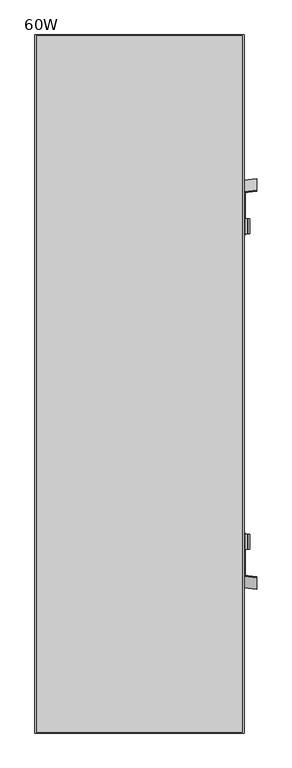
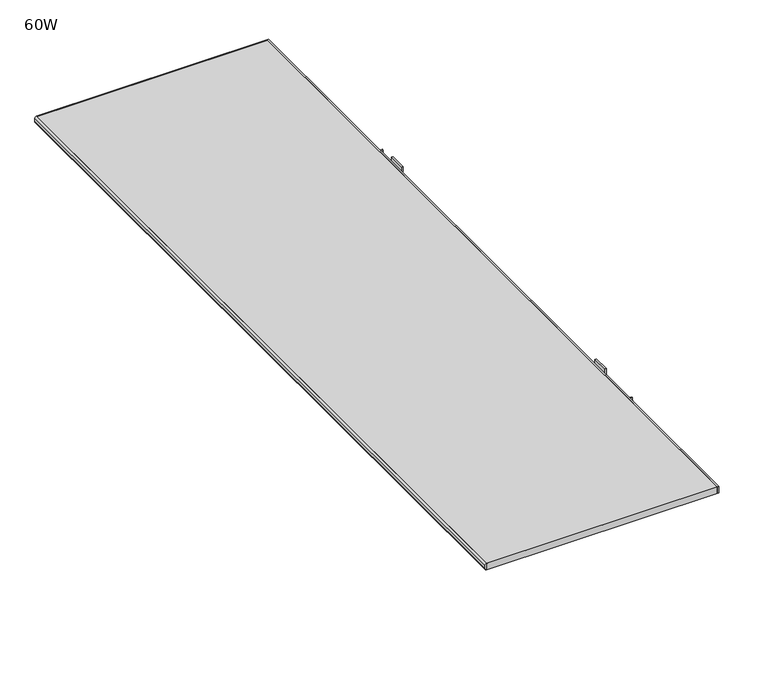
"""IFC4 building model written with IfcOpenShell, lengths in millimetres: furniture geometry, Steelcase Turnstone - Bivi - Table - End Hanging Table Top : 60W."""

from ifc_helpers import new_model, si_unit, point, frame, frame_2d, origin, place, context, project, spatial, polyline, circle_curve, trimmed, segment, composite_curve, outline, extrude, source, transform, mapped, element, save
from ifc_brep_helpers import plane_surface, cylinder_surface, advanced_brep


def furniture_60w_9ff7b1d1(model_context):
    return source(origin(), model_context, "Body", "SolidModel", [
        extrude(outline(polyline([(28.0288148, 0.0), (27.7334318, -2.4057021), (-0.2953831, -2.4057021), (0.0, 0.0), (28.0288148, 0.0)])), frame((151.357864, 789.8087515, 551.5295282), z_axis=(0.0, -0.17364817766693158, 0.9848077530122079), x_axis=(0.9925461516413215, 0.12001787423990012, 0.021162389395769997)), (0.0, 0.0, 1.0), 142.8006039),
        extrude(outline(composite_curve([segment(polyline([(706.6581227, 151.357864), (692.0097104, 151.357864), (692.0097104, 154.3974072), (706.477806, 154.3974072)]), True, "CONTINUOUS"), segment(trimmed(circle_curve(frame_2d((706.477806, 154.9052751)), 0.5078679), [point((706.477806, 154.3974072))], [point((706.9856739, 154.9052751))], True, "CARTESIAN"), True, "CONTINUOUS"), segment(polyline([(706.9856739, 154.9052751), (706.9856739, 160.4973295)]), True, "CONTINUOUS"), segment(trimmed(circle_curve(frame_2d((710.2939333, 160.4973295)), 3.3082594), [point((706.9856739, 160.4973295))], [point((710.2939333, 163.8055889))], False, "CARTESIAN"), True, "CONTINUOUS"), segment(polyline([(710.2939333, 163.8055889), (720.0986764, 163.8055889), (720.0986764, 160.8863522), (710.7524705, 160.8863522)]), True, "CONTINUOUS"), segment(trimmed(circle_curve(frame_2d((710.7524705, 160.1600253)), 0.7263269), [point((710.7524705, 160.8863522))], [point((710.0261436, 160.1600253))], True, "CARTESIAN"), True, "CONTINUOUS"), segment(polyline([(710.0261436, 160.1600253), (710.0261436, 154.7258849)]), True, "CONTINUOUS"), segment(trimmed(circle_curve(frame_2d((706.6581227, 154.7258849)), 3.3680209), [point((710.0261436, 154.7258849))], [point((706.6581227, 151.357864))], False, "CARTESIAN"), True, "CONTINUOUS")], self_intersect=False)), frame((0.0, 673.0778416, 0.0), z_axis=(0.0, 1.0, 0.0), x_axis=(0.0, 0.0, 1.0)), (0.0, 0.0, 1.0), 33.0470014),
        extrude(outline(polyline([(671.0649675, 549.7660381), (673.1510537, 692.0097104), (765.0383051, 692.0097104), (790.1197024, 549.7660381), (671.0649675, 549.7660381)])), frame((151.357864, 0.0, 0.0), z_axis=(1.0, 0.0, 0.0), x_axis=(0.0, 1.0, 0.0)), (0.0, 0.0, 1.0), 3.0395432),
        extrude(outline(composite_curve([segment(trimmed(circle_curve(frame_2d((-198.7944973, 699.774843)), 6.35), [point((-205.1444973, 699.774843))], [point((-198.7944973, 706.124843))], False, "CARTESIAN"), True, "CONTINUOUS"), segment(polyline([(-198.7944973, 706.124843), (137.4407266, 706.124843)]), True, "CONTINUOUS"), segment(trimmed(circle_curve(frame_2d((137.4407266, 699.774843)), 6.35), [point((137.4407266, 706.124843))], [point((143.7907266, 699.774843))], False, "CARTESIAN"), True, "CONTINUOUS"), segment(polyline([(143.7907266, 699.774843), (143.7907266, 671.0649675), (-205.1444973, 671.0649675), (-205.1444973, 699.774843)]), True, "CONTINUOUS")], self_intersect=False)), frame((0.0, 0.0, 674.5478767), z_axis=(0.0, 0.0, 1.0), x_axis=(1.0, 0.0, 0.0)), (0.0, 0.0, 1.0), 2.9704098),
        extrude(outline(composite_curve([segment(trimmed(circle_curve(frame_2d((568.0079733, 133.8117158)), 18.2332909), [point((550.6456053, 128.243855))], [point((549.7746825, 133.8117158))], False, "CARTESIAN"), True, "CONTINUOUS"), segment(polyline([(549.7746825, 133.8117158), (549.7746825, 152.4), (674.3160925, 152.4), (674.3160925, -205.1252336)]), True, "CONTINUOUS"), segment(trimmed(circle_curve(frame_2d((670.4627991, -188.0448136)), 17.5096722), [point((674.3160925, -205.1252336))], [point((653.7894857, -193.3917044))], False, "CARTESIAN"), True, "CONTINUOUS"), segment(polyline([(653.7894857, -193.3917044), (550.6456053, 128.243855)]), True, "CONTINUOUS")], self_intersect=False)), frame((0.0, 669.5953309, 0.0), z_axis=(0.0, 1.0, 0.0), x_axis=(0.0, 0.0, 1.0)), (0.0, 0.0, 1.0), 3.8697323),
        extrude(outline(polyline([(0.0, 0.0), (-3.4158533, -27.8198923), (-5.8396218, -27.8198923), (-2.4237685, 0.0), (0.0, 0.0)])), frame((179.1777563, -103.0226982, 552.1226849), z_axis=(0.0, 0.17364817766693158, 0.9848077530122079), x_axis=(0.0, -0.9848077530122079, 0.17364817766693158)), (0.0, 0.0, 1.0), 142.8006039),
        extrude(outline(composite_curve([segment(polyline([(706.6581227, 151.357864), (692.0097104, 151.357864), (692.0097104, 154.3974072), (706.477806, 154.3974072)]), True, "CONTINUOUS"), segment(trimmed(circle_curve(frame_2d((706.477806, 154.9052751)), 0.5078679), [point((706.477806, 154.3974072))], [point((706.9856739, 154.9052751))], True, "CARTESIAN"), True, "CONTINUOUS"), segment(polyline([(706.9856739, 154.9052751), (706.9856739, 160.4973295)]), True, "CONTINUOUS"), segment(trimmed(circle_curve(frame_2d((710.2939333, 160.4973295)), 3.3082594), [point((706.9856739, 160.4973295))], [point((710.2939333, 163.8055889))], False, "CARTESIAN"), True, "CONTINUOUS"), segment(polyline([(710.2939333, 163.8055889), (720.0986764, 163.8055889), (720.0986764, 160.8863522), (710.7524705, 160.8863522)]), True, "CONTINUOUS"), segment(trimmed(circle_curve(frame_2d((710.7524705, 160.1600253)), 0.7263269), [point((710.7524705, 160.8863522))], [point((710.0261436, 160.1600253))], True, "CARTESIAN"), True, "CONTINUOUS"), segment(polyline([(710.0261436, 160.1600253), (710.0261436, 154.7258849)]), True, "CONTINUOUS"), segment(trimmed(circle_curve(frame_2d((706.6581227, 154.7258849)), 3.3680209), [point((710.0261436, 154.7258849))], [point((706.6581227, 151.357864))], False, "CARTESIAN"), True, "CONTINUOUS")], self_intersect=False)), frame((0.0, -15.9748309, 0.0), z_axis=(0.0, 1.0, 0.0), x_axis=(0.0, 0.0, 1.0)), (0.0, 0.0, 1.0), 33.0470014),
        extrude(outline(polyline([(19.0850446, 549.7660381), (-99.9696903, 549.7660381), (-74.888293, 692.0097104), (16.9989584, 692.0097104), (19.0850446, 549.7660381)])), frame((151.357864, 0.0, 0.0), z_axis=(1.0, 0.0, 0.0), x_axis=(0.0, 1.0, 0.0)), (0.0, 0.0, 1.0), 3.0395432),
        advanced_brep(
        [(143.7907266, -9.6248309, 674.5478767), (137.4407266, -15.9748309, 674.5478767), (-198.7944973, -15.9748309, 674.5478767), (-205.1444973, -9.6248309, 674.5478767), (-205.1444973, 16.6851911, 674.5478767), (143.7907266, 16.6851911, 674.5478767), (-205.1444973, -9.6248309, 677.5182865), (-198.7944973, -15.9748309, 677.5182865), (137.4407266, -15.9748309, 677.5182865), (143.7907266, -9.6248309, 677.5182865), (143.7907266, 19.0850446, 677.5182865), (-205.1444973, 19.0850446, 677.5182865), (143.7907266, 19.0850446, 674.4779633), (-205.1444973, 19.0850446, 674.4779633), (123.481355, 16.6851911, 550.6491627), (129.0492158, 16.6851911, 549.7782399), (147.6375, 16.6851911, 549.7782399), (147.6375, 16.6851911, 674.4779633), (-209.4256624, 16.6851911, 674.4779633), (-197.7589526, 16.6851911, 653.6662916), (123.481355, 22.1251691, 550.6491627), (-197.7589526, 22.1251691, 653.6662916), (-209.4256624, 22.1251691, 674.4779633), (147.6375, 22.1251691, 674.4779633), (147.6375, 22.1251691, 549.7782399), (129.0492158, 22.1251691, 549.7782399)],
        [
            (0, 1, circle_curve(frame((137.4407266, -9.6248309, 674.5478767), z_axis=(0.0, 0.0, -1.0), x_axis=(1.0, 0.0, 0.0)), 6.35)),
            (1, 2),
            (2, 3, circle_curve(frame((-198.7944973, -9.6248309, 674.5478767), z_axis=(0.0, 0.0, -1.0), x_axis=(1.0, 0.0, 0.0)), 6.35)),
            (3, 4),
            (4, 5),
            (5, 0),
            (6, 7, circle_curve(frame((-198.7944973, -9.6248309, 677.5182865), z_axis=(0.0, 0.0, 1.0), x_axis=(1.0, 0.0, 0.0)), 6.35)),
            (7, 8),
            (8, 9, circle_curve(frame((137.4407266, -9.6248309, 677.5182865), z_axis=(0.0, 0.0, 1.0), x_axis=(1.0, 0.0, 0.0)), 6.35)),
            (9, 10),
            (10, 11),
            (11, 6),
            (2, 7),
            (6, 3),
            (1, 8),
            (0, 9),
            (5, 12),
            (12, 10),
            (12, 13),
            (13, 11),
            (13, 4),
            (14, 15, circle_curve(frame((129.0492158, 16.6851911, 568.0115308), z_axis=(0.0, -1.0, 0.0), x_axis=(1.0, 0.0, 0.0)), 18.2332909)),
            (15, 16),
            (16, 17),
            (17, 5),
            (4, 18),
            (18, 19, circle_curve(frame((-192.4120617, 16.6851911, 670.3396049), z_axis=(0.0, -1.0, 0.0), x_axis=(1.0, 0.0, 0.0)), 17.5096722)),
            (19, 14),
            (20, 21),
            (21, 22, circle_curve(frame((-192.4120617, 22.1251691, 670.3396049), z_axis=(0.0, 1.0, 0.0), x_axis=(1.0, 0.0, 0.0)), 17.5096722)),
            (22, 23),
            (23, 24),
            (24, 25),
            (25, 20, circle_curve(frame((129.0492158, 22.1251691, 568.0115308), z_axis=(0.0, 1.0, 0.0), x_axis=(1.0, 0.0, 0.0)), 18.2332909)),
            (14, 20),
            (25, 15),
            (24, 16),
            (23, 17),
            (22, 18),
            (21, 19),
        ],
        [
            plane_surface(frame((-192.4444973, -9.6248309, 674.5478767), z_axis=(0.0, 0.0, -1.0), x_axis=(0.0, -1.0, 0.0))),
            plane_surface(frame((-192.4444973, -9.6248309, 677.5182865), z_axis=(0.0, 0.0, 1.0), x_axis=(0.0, 1.0, 0.0))),
            cylinder_surface(frame((-198.7944973, -9.6248309, 674.5478767), z_axis=(0.0, 0.0, 1.0), x_axis=(1.0, 0.0, 0.0)), 6.35),
            plane_surface(frame((-198.7944973, -15.9748309, 677.5182865), z_axis=(0.0, -1.0, 0.0), x_axis=(0.0, 0.0, -1.0))),
            cylinder_surface(frame((137.4407266, -9.6248309, 674.5478767), z_axis=(0.0, 0.0, 1.0), x_axis=(1.0, 0.0, 0.0)), 6.35),
            plane_surface(frame((143.7907266, -9.6248309, 677.5182865), z_axis=(1.0, 0.0, 0.0), x_axis=(0.0, 0.0, -1.0))),
            plane_surface(frame((143.7907266, 19.0850446, 677.5182865), z_axis=(0.0, 1.0, 0.0), x_axis=(0.0, 0.0, -1.0))),
            plane_surface(frame((-205.1444973, 19.0850446, 677.5182865), z_axis=(-1.0, 0.0, 0.0), x_axis=(0.0, 0.0, -1.0))),
            plane_surface(frame((147.2825066, 16.6851911, 568.0115308), z_axis=(0.0, -1.0, 0.0), x_axis=(0.0, 0.0, 1.0))),
            plane_surface(frame((147.2825066, 22.1251691, 568.0115308), z_axis=(0.0, 1.0, 0.0), x_axis=(0.0, 0.0, -1.0))),
            cylinder_surface(frame((129.0492158, 22.1251691, 568.0115308), z_axis=(0.0, -1.0, 0.0), x_axis=(1.0, 0.0, 0.0)), 18.2332909),
            plane_surface(frame((129.0492158, 16.6851911, 549.7782399), z_axis=(0.0, 0.0, -1.0), x_axis=(0.0, 1.0, 0.0))),
            plane_surface(frame((147.6375, 16.6851911, 549.7782399), z_axis=(1.0, 0.0, 0.0), x_axis=(0.0, 1.0, 0.0))),
            plane_surface(frame((147.6375, 16.6851911, 674.4779633), z_axis=(0.0, 0.0, 1.0), x_axis=(0.0, 1.0, 0.0))),
            cylinder_surface(frame((-192.4120617, 22.1251691, 670.3396049), z_axis=(0.0, -1.0, 0.0), x_axis=(1.0, 0.0, 0.0)), 17.5096722),
            plane_surface(frame((-197.7589526, 16.6851911, 653.6662916), z_axis=(-0.3053678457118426, 0.0, -0.9522344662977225), x_axis=(0.0, 1.0, 0.0))),
        ],
        [
            (0, [[1, 2, 3, 4, 5, 6]]),
            (1, [[7, 8, 9, 10, 11, 12]]),
            (2, [[-3, 13, -7, 14]]),
            (3, [[-2, 15, -8, -13]]),
            (4, [[-1, 16, -9, -15]]),
            (5, [[-10, -16, -6, 17, 18]]),
            (6, [[-11, -18, 19, 20]]),
            (7, [[-12, -20, 21, -4, -14]]),
            (8, [[22, 23, 24, 25, -5, 26, 27, 28]]),
            (9, [[29, 30, 31, 32, 33, 34]]),
            (10, [[-22, 35, -34, 36]]),
            (11, [[-23, -36, -33, 37]]),
            (12, [[-24, -37, -32, 38]]),
            (13, [[-31, 39, -26, -21, -19, -17, -25, -38]]),
            (14, [[-27, -39, -30, 40]]),
            (15, [[-28, -40, -29, -35]]),
        ],
    ),
        extrude(outline(composite_curve([segment(polyline([(708.9931648, -246.715791), (708.9931648, -236.0860189)]), True, "CONTINUOUS"), segment(trimmed(circle_curve(frame_2d((708.121738, -236.0860189)), 0.8714268), [point((708.9931648, -236.0860189))], [point((708.1218384, -235.2145921))], True, "CARTESIAN"), True, "CONTINUOUS"), segment(polyline([(708.1218384, -235.2145921), (700.9111284, -235.2137611)]), True, "CONTINUOUS"), segment(trimmed(circle_curve(frame_2d((700.9113876, -232.9646678)), 2.2490933), [point((700.9111284, -235.2137611))], [point((699.0918253, -234.2866412))], False, "CARTESIAN"), True, "CONTINUOUS"), segment(polyline([(699.0918253, -234.2866412), (677.8465543, -205.0446808)]), True, "CONTINUOUS"), segment(trimmed(circle_curve(frame_2d((679.2371494, -204.0343665)), 1.7188629), [point((677.8465543, -205.0446808))], [point((677.5182865, -204.0343665))], False, "CARTESIAN"), True, "CONTINUOUS"), segment(polyline([(677.5182865, -204.0343665), (677.5182865, -193.0180215)]), True, "CONTINUOUS"), segment(trimmed(circle_curve(frame_2d((679.7724917, -193.0180215)), 2.2542052), [point((677.5182865, -193.0180215))], [point((679.7724917, -190.7638163))], False, "CARTESIAN"), True, "CONTINUOUS"), segment(polyline([(679.7724917, -190.7638163), (708.3342493, -190.7638163)]), True, "CONTINUOUS"), segment(trimmed(circle_curve(frame_2d((708.3342493, -190.0138279)), 0.7499884), [point((708.3342493, -190.7638163))], [point((709.0842377, -190.0138257))], True, "CARTESIAN"), True, "CONTINUOUS"), segment(polyline([(709.0842377, -190.0138257), (709.0841892, -173.6504229), (710.2905594, -173.6504229), (710.2905594, -190.0138221)]), True, "CONTINUOUS"), segment(trimmed(circle_curve(frame_2d((708.3340461, -190.0073645)), 1.9565239), [point((710.2905594, -190.0138221))], [point((708.3340412, -191.9638884))], False, "CARTESIAN"), True, "CONTINUOUS"), segment(polyline([(708.3340412, -191.9638884), (679.6291534, -191.9638161)]), True, "CONTINUOUS"), segment(trimmed(circle_curve(frame_2d((679.6291511, -192.8747533)), 0.9109372), [point((679.6291534, -191.9638161))], [point((678.718214, -192.8747572))], True, "CARTESIAN"), True, "CONTINUOUS"), segment(polyline([(678.718214, -192.8747572), (678.7182604, -203.648943)]), True, "CONTINUOUS"), segment(trimmed(circle_curve(frame_2d((680.423065, -203.6489357)), 1.7048046), [point((678.7182604, -203.648943))], [point((679.0438446, -204.6509885))], True, "CARTESIAN"), True, "CONTINUOUS"), segment(polyline([(679.0438446, -204.6509885), (700.0323253, -233.5394254)]), True, "CONTINUOUS"), segment(trimmed(circle_curve(frame_2d((700.963408, -232.8629606)), 1.1508778), [point((700.0323253, -233.5394254))], [point((700.9632864, -234.0138384))], True, "CARTESIAN"), True, "CONTINUOUS"), segment(polyline([(700.9632864, -234.0138384), (707.9518029, -234.0145767)]), True, "CONTINUOUS"), segment(trimmed(circle_curve(frame_2d((707.9515558, -236.3535802)), 2.3390036), [point((707.9518029, -234.0145767))], [point((710.2905594, -236.3535802))], False, "CARTESIAN"), True, "CONTINUOUS"), segment(polyline([(710.2905594, -236.3535802), (710.2905594, -246.715791), (708.9931648, -246.715791)]), True, "CONTINUOUS")], self_intersect=False)), frame((0.0, -347.4747515, 0.0), z_axis=(0.0, 1.0, 0.0), x_axis=(0.0, 0.0, 1.0)), (0.0, 0.0, 1.0), 1385.0997937),
        extrude(outline(composite_curve([segment(polyline([(708.9931648, 143.7907266), (710.2905594, 143.7907266), (710.2905594, 133.4285157)]), True, "CONTINUOUS"), segment(trimmed(circle_curve(frame_2d((707.9515558, 133.4285157)), 2.3390036), [point((710.2905594, 133.4285157))], [point((707.9518029, 131.0895122))], False, "CARTESIAN"), True, "CONTINUOUS"), segment(polyline([(707.9518029, 131.0895122), (700.9632864, 131.0887739)]), True, "CONTINUOUS"), segment(trimmed(circle_curve(frame_2d((700.963408, 129.9378961)), 1.1508778), [point((700.9632864, 131.0887739))], [point((700.0323253, 130.614361))], True, "CARTESIAN"), True, "CONTINUOUS"), segment(polyline([(700.0323253, 130.614361), (679.0438446, 101.725924)]), True, "CONTINUOUS"), segment(trimmed(circle_curve(frame_2d((680.423065, 100.7238712)), 1.7048046), [point((679.0438446, 101.725924))], [point((678.7182604, 100.7238786))], True, "CARTESIAN"), True, "CONTINUOUS"), segment(polyline([(678.7182604, 100.7238786), (678.718214, 89.9496927)]), True, "CONTINUOUS"), segment(trimmed(circle_curve(frame_2d((679.6291511, 89.9496888)), 0.9109372), [point((678.718214, 89.9496927))], [point((679.6291534, 89.0387516))], True, "CARTESIAN"), True, "CONTINUOUS"), segment(polyline([(679.6291534, 89.0387516), (708.3340412, 89.0388239)]), True, "CONTINUOUS"), segment(trimmed(circle_curve(frame_2d((708.3340461, 87.0823)), 1.9565239), [point((708.3340412, 89.0388239))], [point((710.2905594, 87.0887577))], False, "CARTESIAN"), True, "CONTINUOUS"), segment(polyline([(710.2905594, 87.0887577), (710.2905594, 70.7253584), (709.0841892, 70.7253584), (709.0842377, 87.0887612)]), True, "CONTINUOUS"), segment(trimmed(circle_curve(frame_2d((708.3342493, 87.0887635)), 0.7499884), [point((709.0842377, 87.0887612))], [point((708.3342493, 87.8387518))], True, "CARTESIAN"), True, "CONTINUOUS"), segment(polyline([(708.3342493, 87.8387518), (679.7724917, 87.8387518)]), True, "CONTINUOUS"), segment(trimmed(circle_curve(frame_2d((679.7724917, 90.092957)), 2.2542052), [point((679.7724917, 87.8387518))], [point((677.5182865, 90.092957))], False, "CARTESIAN"), True, "CONTINUOUS"), segment(polyline([(677.5182865, 90.092957), (677.5182865, 101.1093021)]), True, "CONTINUOUS"), segment(trimmed(circle_curve(frame_2d((679.2371494, 101.1093021)), 1.7188629), [point((677.5182865, 101.1093021))], [point((677.8465543, 102.1196163))], False, "CARTESIAN"), True, "CONTINUOUS"), segment(polyline([(677.8465543, 102.1196163), (699.0918253, 131.3615767)]), True, "CONTINUOUS"), segment(trimmed(circle_curve(frame_2d((700.9113876, 130.0396033)), 2.2490933), [point((699.0918253, 131.3615767))], [point((700.9111284, 132.2886966))], False, "CARTESIAN"), True, "CONTINUOUS"), segment(polyline([(700.9111284, 132.2886966), (708.1218384, 132.2895276)]), True, "CONTINUOUS"), segment(trimmed(circle_curve(frame_2d((708.121738, 133.1609544)), 0.8714268), [point((708.1218384, 132.2895276))], [point((708.9931648, 133.1609544))], True, "CARTESIAN"), True, "CONTINUOUS"), segment(polyline([(708.9931648, 133.1609544), (708.9931648, 143.7907266)]), True, "CONTINUOUS")], self_intersect=False)), frame((0.0, -347.4747515, 0.0), z_axis=(0.0, 1.0, 0.0), x_axis=(0.0, 0.0, 1.0)), (0.0, 0.0, 1.0), 1385.0997937),
        extrude(outline(composite_curve([segment(trimmed(circle_curve(frame_2d((713.4045166, -301.6838516)), 3.1161241), [point((713.4045166, -304.7999758))], [point((710.2905594, -301.8000418))], False, "CARTESIAN"), True, "CONTINUOUS"), segment(polyline([(710.2905594, -301.8000418), (723.320578, -301.8000418)]), True, "CONTINUOUS"), segment(trimmed(circle_curve(frame_2d((720.320644, -301.8000418)), 2.999934), [point((723.320578, -301.8000418))], [point((720.320644, -304.7999758))], False, "CARTESIAN"), True, "CONTINUOUS"), segment(polyline([(720.320644, -304.7999758), (713.4045166, -304.7999758)]), True, "CONTINUOUS")], self_intersect=False)), frame((0.0, -416.9249697, 0.0), z_axis=(0.0, 1.0, 0.0), x_axis=(0.0, 0.0, 1.0)), (0.0, 0.0, 1.0), 1524.0),
        extrude(outline(polyline([(-301.8000418, 1106.0750429), (-301.8000418, 1107.0750303), (152.4, 1107.0750303), (152.4, -416.9249697), (-301.8000418, -416.9249697), (-301.8000418, -415.9250308), (149.3999893, -415.9250308), (149.3999893, 1106.0750429), (-301.8000418, 1106.0750429)])), frame((0.0, 0.0, 710.2905594), z_axis=(0.0, 0.0, 1.0), x_axis=(1.0, 0.0, 0.0)), (0.0, 0.0, 1.0), 13.0300186),
        extrude(outline(polyline([(149.3999893, 1106.0750429), (149.3999893, -415.9250308), (-301.8000418, -415.9250308), (-301.8000418, 1106.0750429), (149.3999893, 1106.0750429)])), frame((0.0, 0.0, 710.2905594), z_axis=(0.0, 0.0, 1.0), x_axis=(1.0, 0.0, 0.0)), (0.0, 0.0, 1.0), 13.0300186),
    ])


if __name__ == "__main__":
    model = new_model("IFC4")
    model_context = context("Model", 3, world=origin())
    ifc_project = project(units=[si_unit("LENGTHUNIT", "METRE", prefix="MILLI")], contexts=[model_context])
    site = spatial("IfcSite", under=ifc_project)
    building = spatial("IfcBuilding", under=site)
    placement = place(None, origin())
    furniture_60w_shape = furniture_60w_9ff7b1d1(model_context)
    element("IfcFurniture", 1, ObjectType="Steelcase Turnstone - Bivi - Table - End Hanging Table Top : 60W", at=placement, inside=building, context=model_context, shape_type="MappedRepresentation", body=[
        mapped(furniture_60w_shape, transform((0.0, 0.0, 0.0), x_axis=(1.0, 0.0, 0.0), y_axis=(0.0, 1.0, 0.0), z_axis=(0.0, 0.0, 1.0))),
    ])
    save(model, "model.ifc")
